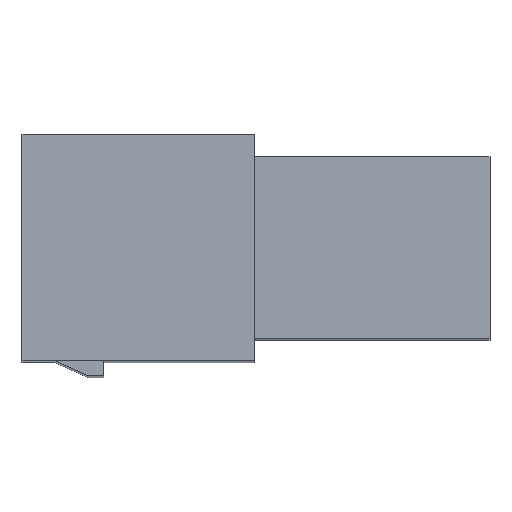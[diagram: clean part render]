
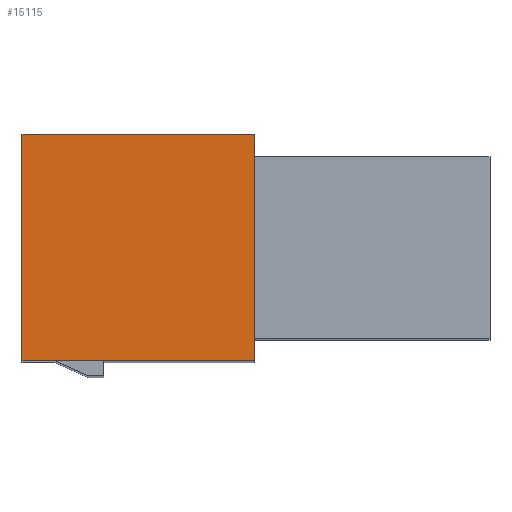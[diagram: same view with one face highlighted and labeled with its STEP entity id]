
A CAD part, top view. The second image highlights one B-rep face of the part: STEP entity #15115.
In plain terms, the highlighted planar face has unit normal (0, 0, 1).
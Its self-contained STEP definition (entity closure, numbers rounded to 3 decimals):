
#7772=CARTESIAN_POINT('Vertex',(-15.5,-3.75,22.2)) ;
#7775=CARTESIAN_POINT('Line Origine',(-15.5,0.,22.2)) ;
#7779=CARTESIAN_POINT('Vertex',(-15.5,3.75,22.2)) ;
#15062=CARTESIAN_POINT('Line Origine',(-11.65,3.75,22.2)) ;
#15066=CARTESIAN_POINT('Vertex',(-7.8,3.75,22.2)) ;
#15092=CARTESIAN_POINT('Axis2P3D Location',(0.,0.,22.2)) ;
#15097=CARTESIAN_POINT('Line Origine',(-7.8,0.,22.2)) ;
#15101=CARTESIAN_POINT('Vertex',(-7.8,-3.75,22.2)) ;
#15104=CARTESIAN_POINT('Line Origine',(-11.65,-3.75,22.2)) ;
#7776=DIRECTION('Vector Direction',(0.,1.,0.)) ;
#15063=DIRECTION('Vector Direction',(1.,0.,0.)) ;
#15093=DIRECTION('Axis2P3D Direction',(0.,0.,1.)) ;
#15094=DIRECTION('Axis2P3D XDirection',(0.,1.,0.)) ;
#15098=DIRECTION('Vector Direction',(0.,-1.,0.)) ;
#15105=DIRECTION('Vector Direction',(-1.,0.,0.)) ;
#15095=AXIS2_PLACEMENT_3D('Plane Axis2P3D',#15092,#15093,#15094) ;
#15110=ORIENTED_EDGE('',*,*,#15103,.T.) ;
#15111=ORIENTED_EDGE('',*,*,#15068,.T.) ;
#15112=ORIENTED_EDGE('',*,*,#7781,.T.) ;
#15113=ORIENTED_EDGE('',*,*,#15108,.T.) ;
#7777=VECTOR('Line Direction',#7776,1.) ;
#15064=VECTOR('Line Direction',#15063,1.) ;
#15099=VECTOR('Line Direction',#15098,1.) ;
#15106=VECTOR('Line Direction',#15105,1.) ;
#15115=ADVANCED_FACE('\X2\96F64EF651E04F554F53\X0\',(#15114),#15096,.T.) ;
#7781=EDGE_CURVE('',#7780,#7773,#7778,.F.) ;
#15068=EDGE_CURVE('',#15067,#7780,#15065,.F.) ;
#15103=EDGE_CURVE('',#15102,#15067,#15100,.F.) ;
#15108=EDGE_CURVE('',#7773,#15102,#15107,.F.) ;
#15109=EDGE_LOOP('',(#15110,#15111,#15112,#15113)) ;
#15114=FACE_OUTER_BOUND('',#15109,.T.) ;
#7778=LINE('Line',#7775,#7777) ;
#15065=LINE('Line',#15062,#15064) ;
#15100=LINE('Line',#15097,#15099) ;
#15107=LINE('Line',#15104,#15106) ;
#15096=PLANE('Plane',#15095) ;
#7773=VERTEX_POINT('',#7772) ;
#7780=VERTEX_POINT('',#7779) ;
#15067=VERTEX_POINT('',#15066) ;
#15102=VERTEX_POINT('',#15101) ;
